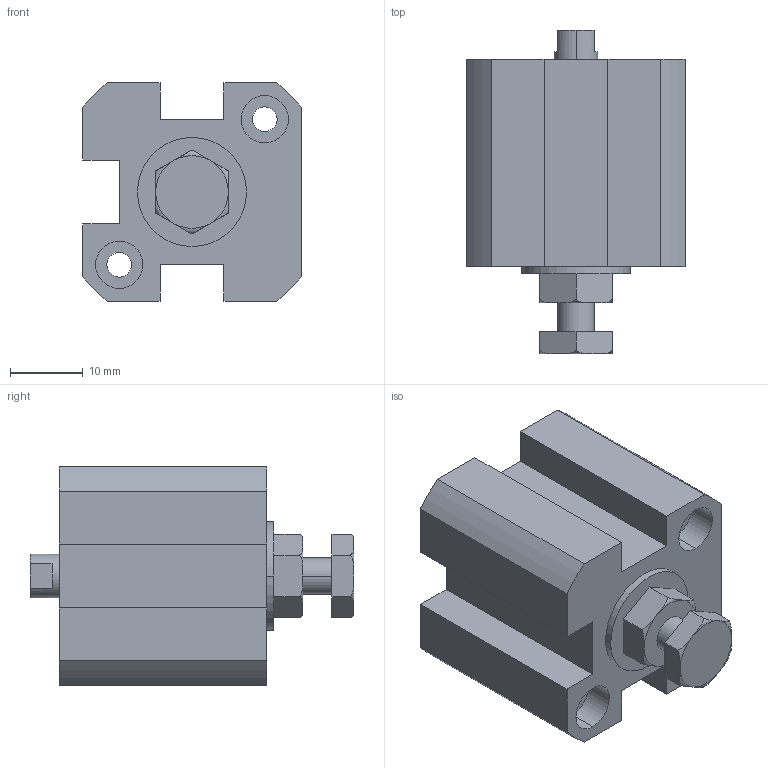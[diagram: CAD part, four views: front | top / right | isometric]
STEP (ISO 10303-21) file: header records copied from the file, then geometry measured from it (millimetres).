
FILE_DESCRIPTION (( 'STEP AP203' ), '1' );
FILE_NAME ('XCA2-16-10.STEP', '2016-05-24T02:29:12', ( '' ), ( '' ), 'SwSTEP 2.0', 'SolidWorks 2014', '' );
FILE_SCHEMA (( 'CONFIG_CONTROL_DESIGN' ));
Length unit declared in the file: millimetre
Products named in the file (3): XCA2-16-10; XC#2-16-10; X#A2-16-H
Assembly tree (2 placements, depth 2):
  XCA2-16-10
    XC#2-16-10
    X#A2-16-H
Bounding box: 30 x 44.5 x 30 mm (x, y, z)
Volume: 20673.9 mm3; surface area: 7755.8 mm2
Topology: 2 solids, 2 shells, 110 faces, 263 edges, 166 vertices
Faces by surface type: plane 49, cylinder 43, torus 12, cone 6
Entity records: 3685 total; most frequent: CARTESIAN_POINT 802, DIRECTION 566, ORIENTED_EDGE 514, EDGE_CURVE 257, AXIS2_PLACEMENT_3D 218, VERTEX_POINT 166, VECTOR 130, LINE 130
